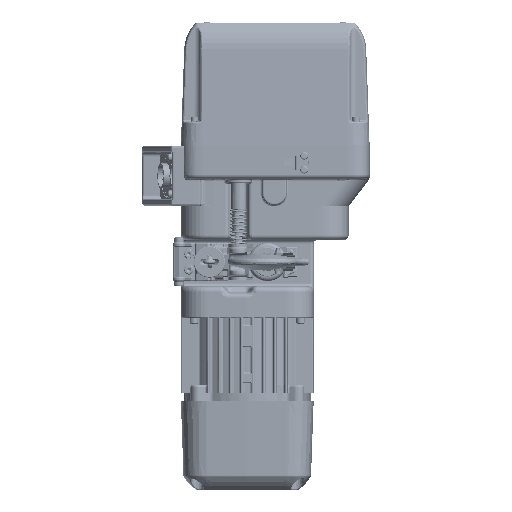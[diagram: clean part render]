
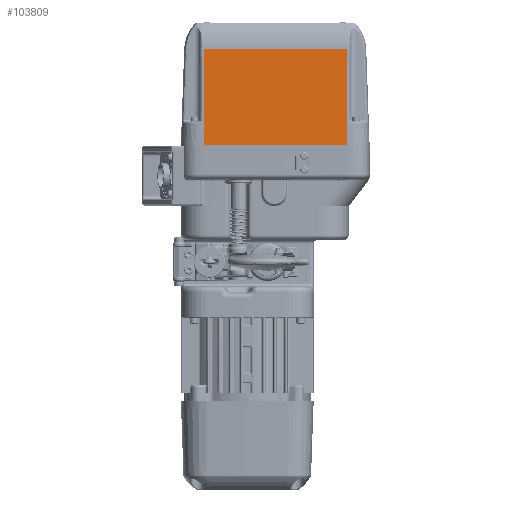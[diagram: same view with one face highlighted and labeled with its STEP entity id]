
A CAD part, front view. The second image highlights one B-rep face of the part: STEP entity #103809.
In plain terms, the highlighted planar face has unit normal (0, -0.999, 0.035).
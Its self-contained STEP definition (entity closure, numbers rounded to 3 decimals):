
#22 = CARTESIAN_POINT ( 'NONE',  ( 0., -83.5, 0. ) ) ;
#2130 = PLANE ( 'NONE',  #123940 ) ;
#14136 = LINE ( 'NONE', #22, #39996 ) ;
#18607 = ORIENTED_EDGE ( 'NONE', *, *, #116194, .T. ) ;
#20220 = LINE ( 'NONE', #131444, #134817 ) ;
#32940 = CARTESIAN_POINT ( 'NONE',  ( -81.847, -83.5, 0. ) ) ;
#39996 = VECTOR ( 'NONE', #88780, 1000. ) ;
#44634 = LINE ( 'NONE', #109318, #74809 ) ;
#45139 = DIRECTION ( 'NONE',  ( 0., -0.035, -0.999 ) ) ;
#49714 = EDGE_LOOP ( 'NONE', ( #18607, #126887, #158403, #148690 ) ) ;
#51069 = DIRECTION ( 'NONE',  ( 0., -0.035, -0.999 ) ) ;
#53540 = CARTESIAN_POINT ( 'NONE',  ( 0., -83.5, 0. ) ) ;
#59068 = VERTEX_POINT ( 'NONE', #75841 ) ;
#61745 = VECTOR ( 'NONE', #45139, 1000. ) ;
#62138 = VERTEX_POINT ( 'NONE', #138210 ) ;
#64343 = DIRECTION ( 'NONE',  ( 0., -0.999, 0.035 ) ) ;
#64951 = CARTESIAN_POINT ( 'NONE',  ( -81.847, -79.64, 110.534 ) ) ;
#65446 = EDGE_CURVE ( 'NONE', #59068, #156076, #14136, .T. ) ;
#74809 = VECTOR ( 'NONE', #135922, 1000. ) ;
#75841 = CARTESIAN_POINT ( 'NONE',  ( 81.847, -83.5, 0. ) ) ;
#88780 = DIRECTION ( 'NONE',  ( -1., 0., 0. ) ) ;
#94125 = LINE ( 'NONE', #158937, #61745 ) ;
#103809 = ADVANCED_FACE ( 'NONE', ( #151577 ), #2130, .T. ) ;
#109318 = CARTESIAN_POINT ( 'NONE',  ( 81.847, -79.64, 110.534 ) ) ;
#116194 = EDGE_CURVE ( 'NONE', #62138, #159445, #44634, .T. ) ;
#121438 = DIRECTION ( 'NONE',  ( 0., -0.035, -0.999 ) ) ;
#123940 = AXIS2_PLACEMENT_3D ( 'NONE', #53540, #64343, #51069 ) ;
#124824 = EDGE_CURVE ( 'NONE', #62138, #59068, #94125, .T. ) ;
#126887 = ORIENTED_EDGE ( 'NONE', *, *, #134159, .T. ) ;
#131444 = CARTESIAN_POINT ( 'NONE',  ( -81.847, -83.5, 0. ) ) ;
#134159 = EDGE_CURVE ( 'NONE', #159445, #156076, #20220, .T. ) ;
#134817 = VECTOR ( 'NONE', #121438, 1000. ) ;
#135922 = DIRECTION ( 'NONE',  ( -1., 0., 0. ) ) ;
#138210 = CARTESIAN_POINT ( 'NONE',  ( 81.847, -79.64, 110.534 ) ) ;
#148690 = ORIENTED_EDGE ( 'NONE', *, *, #124824, .F. ) ;
#151577 = FACE_OUTER_BOUND ( 'NONE', #49714, .T. ) ;
#156076 = VERTEX_POINT ( 'NONE', #32940 ) ;
#158403 = ORIENTED_EDGE ( 'NONE', *, *, #65446, .F. ) ;
#158937 = CARTESIAN_POINT ( 'NONE',  ( 81.847, -83.5, 0. ) ) ;
#159445 = VERTEX_POINT ( 'NONE', #64951 ) ;
